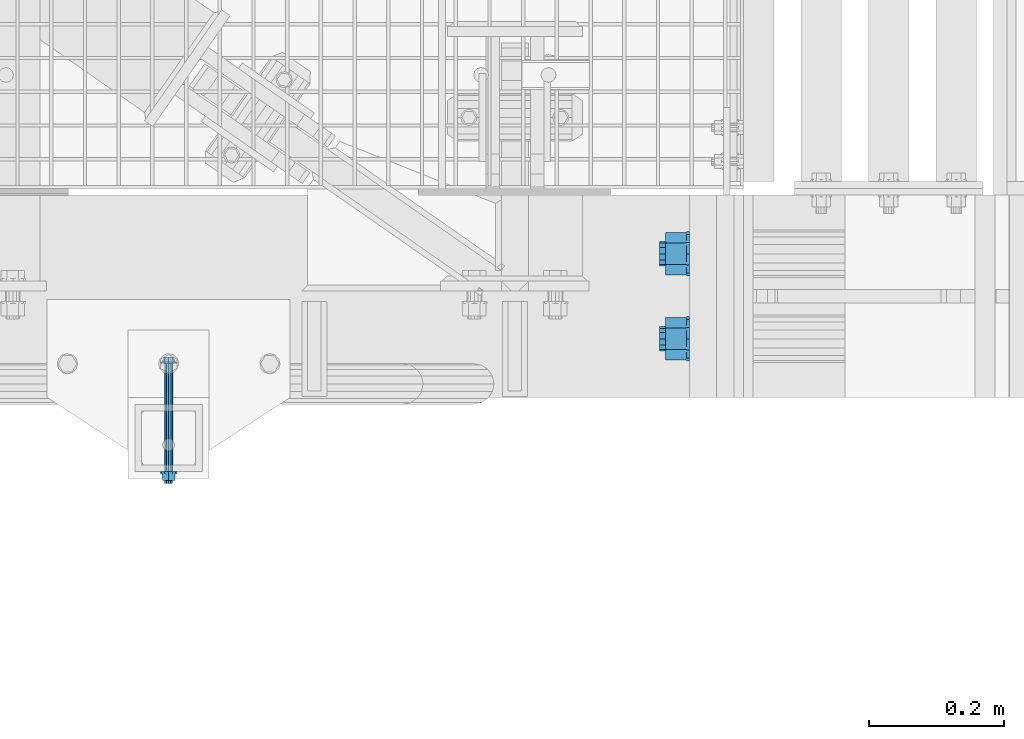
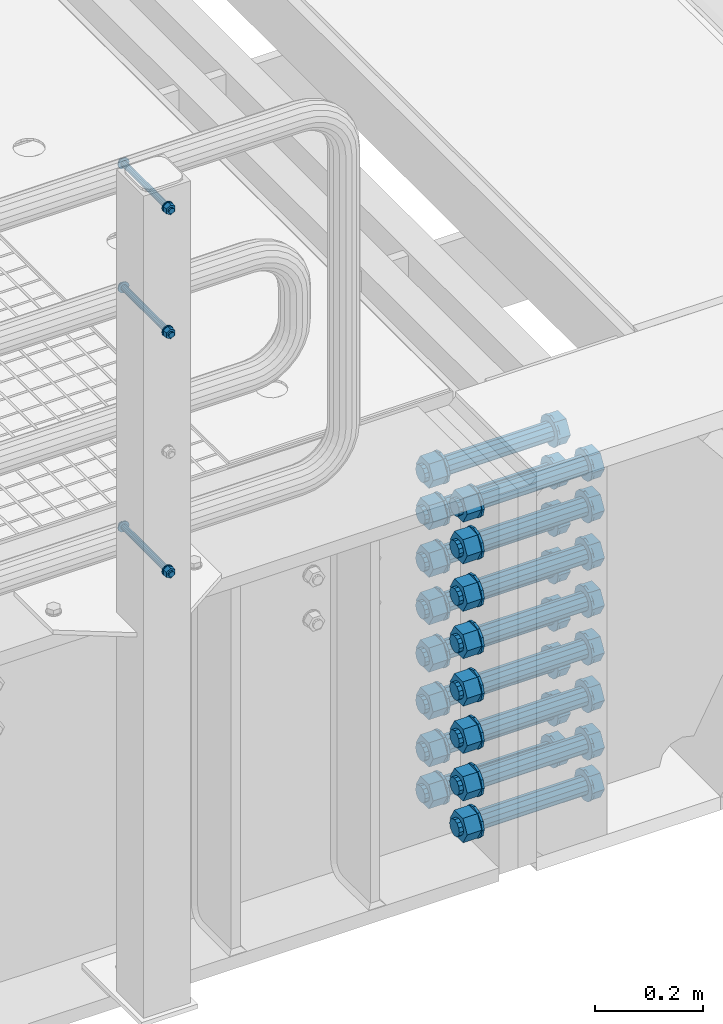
# One storey, part 50 of 1530: 4 mechanical fasteners.
"""IFC2X3 building model written with IfcOpenShell, lengths in millimetres."""

from ifc_helpers import new_model, si_unit, frame, origin_with_axes, place, context, subcontext, project, spatial, faceted_brep, source, transform, mapped, material, type_object, element, save


model = new_model("IFC2X3")

# Units and contexts
model_context = context("Model", 3, precision=1e-05, world=origin_with_axes())
body_context = subcontext(model_context, "Body", "Model", "MODEL_VIEW")
ifc_project = project(units=[si_unit("LENGTHUNIT", "METRE", prefix="MILLI"), si_unit("AREAUNIT", "SQUARE_METRE"), si_unit("VOLUMEUNIT", "CUBIC_METRE"), si_unit("MASSUNIT", "GRAM", prefix="KILO"), si_unit("TIMEUNIT", "SECOND"), si_unit("PLANEANGLEUNIT", "RADIAN"), si_unit("SOLIDANGLEUNIT", "STERADIAN"), si_unit("THERMODYNAMICTEMPERATUREUNIT", "DEGREE_CELSIUS"), si_unit("LUMINOUSINTENSITYUNIT", "LUMEN")], contexts=[model_context])

# Site, building, storey
site_placement = place(None, origin_with_axes())
site = spatial("IfcSite", under=ifc_project, at=site_placement, Name="Brattvåg", CompositionType="ELEMENT")
building_placement = place(site_placement, origin_with_axes())
building = spatial("IfcBuilding", under=site, at=building_placement, Name="Undefined", CompositionType="ELEMENT")
storey_placement = place(building_placement, origin_with_axes())
storey = spatial("IfcBuildingStorey", under=building, at=storey_placement, Name="Undefined", CompositionType="ELEMENT", Elevation=0.0)

# Mechanical fasteners
ifc_material = material(Name="8")
mechanical_fastener_type = type_object("IfcMechanicalFastenerType", Name="Bolt assembly")
shared_shape_1 = source(origin_with_axes(), body_context, "Body", "Brep", [
    faceted_brep([(6.49435320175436, -9.99984019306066, 0.0), (4.59220118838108, -9.99984019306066, 4.59220118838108), (3.97664443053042e-16, -9.99984019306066, 6.49435320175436), (-4.59220118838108, -9.99984019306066, 4.59220118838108), (-6.49435320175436, -9.99984019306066, 7.95328886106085e-16), (-4.59220118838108, -9.99984019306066, -4.59220118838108), (-1.19299332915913e-15, -9.99984019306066, -6.49435320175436), (4.59220118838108, -9.99984019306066, -4.59220118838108), (7.34846922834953, -2.49984019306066, -7.34846922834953), (-1.90903542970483e-15, -2.49984019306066, -10.3923048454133), (-7.34846922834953, -2.49984019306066, -7.34846922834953), (-10.3923048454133, -2.49984019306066, 1.27269028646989e-15), (-7.34846922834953, -2.49984019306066, 7.34846922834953), (6.36345143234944e-16, -2.49984019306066, 10.3923048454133), (7.34846922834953, -2.49984019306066, 7.34846922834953), (10.3923048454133, -2.49984019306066, 0.0), (6.0, -2.49984019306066, 0.0), (5.19615242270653, -2.49984019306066, 3.00000000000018), (2.99999999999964, -2.49984019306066, 5.19615242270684), (-6.21801588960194e-13, -2.49984019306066, 6.0), (-3.00000000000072, -2.49984019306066, 5.19615242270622), (-5.19615242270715, -2.49984019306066, 2.9999999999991), (-6.0, -2.49984019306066, -1.24360317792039e-12), (-5.19615242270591, -2.49984019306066, -3.00000000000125), (-2.99999999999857, -2.49984019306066, -5.19615242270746), (1.85874342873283e-12, -2.49984019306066, -6.0), (3.00000000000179, -2.49984019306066, -5.1961524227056), (5.19615242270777, -2.49984019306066, -2.99999999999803), (5.19615242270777, 177.500159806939, -2.99999999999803), (3.00000000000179, 177.500159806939, -5.1961524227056), (1.85874342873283e-12, 177.500159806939, -6.0), (-2.99999999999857, 177.500159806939, -5.19615242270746), (-5.19615242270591, 177.500159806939, -3.00000000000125), (-6.0, 177.500159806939, -1.24360317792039e-12), (-5.19615242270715, 177.500159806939, 2.9999999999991), (-3.00000000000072, 177.500159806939, 5.19615242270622), (-6.21801588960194e-13, 177.500159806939, 6.0), (2.99999999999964, 177.500159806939, 5.19615242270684), (5.19615242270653, 177.500159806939, 3.00000000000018), (6.0, 177.500159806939, 0.0), (12.0, -2.49984019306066, 0.0), (10.3923048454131, -2.49984019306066, 6.00000000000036), (5.99999999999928, -2.49984019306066, 10.3923048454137), (-1.24360317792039e-12, -2.49984019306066, 12.0), (-6.00000000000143, -2.49984019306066, 10.3923048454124), (-10.3923048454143, -2.49984019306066, 5.99999999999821), (-12.0, -2.49984019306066, -2.48720635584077e-12), (-10.3923048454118, -2.49984019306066, -6.00000000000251), (-5.99999999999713, -2.49984019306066, -10.3923048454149), (3.71748685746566e-12, -2.49984019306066, -12.0), (6.00000000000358, -2.49984019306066, -10.3923048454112), (10.3923048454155, -2.49984019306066, -5.99999999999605), (10.3923048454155, 0.000159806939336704, -5.99999999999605), (6.00000000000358, 0.000159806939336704, -10.3923048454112), (3.71748685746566e-12, 0.000159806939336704, -12.0), (-5.99999999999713, 0.000159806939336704, -10.3923048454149), (-10.3923048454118, 0.000159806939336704, -6.00000000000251), (-12.0, 0.000159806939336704, -2.48720635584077e-12), (-10.3923048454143, 0.000159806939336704, 5.99999999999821), (-6.00000000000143, 0.000159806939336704, 10.3923048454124), (-1.24360317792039e-12, 0.000159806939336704, 12.0), (5.99999999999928, 0.000159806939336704, 10.3923048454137), (10.3923048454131, 0.000159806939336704, 6.00000000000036), (12.0, 0.000159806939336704, 0.0), (12.0, 160.299998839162, 0.0), (10.3923048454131, 160.299998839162, 6.00000000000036), (5.99999999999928, 160.299998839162, 10.3923048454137), (-1.24360317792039e-12, 160.299998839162, 12.0), (-6.00000000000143, 160.299998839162, 10.3923048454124), (-10.3923048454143, 160.299998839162, 5.99999999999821), (-12.0, 160.299998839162, -2.48720635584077e-12), (-10.3923048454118, 160.299998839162, -6.00000000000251), (-5.99999999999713, 160.299998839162, -10.3923048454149), (3.71748685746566e-12, 160.299998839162, -12.0), (6.00000000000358, 160.299998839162, -10.3923048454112), (10.3923048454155, 160.299998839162, -5.99999999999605), (10.3923048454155, 162.799998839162, -5.99999999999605), (6.00000000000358, 162.799998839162, -10.3923048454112), (3.71748685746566e-12, 162.799998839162, -12.0), (-5.99999999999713, 162.799998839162, -10.3923048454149), (-10.3923048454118, 162.799998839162, -6.00000000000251), (-12.0, 162.799998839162, -2.48720635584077e-12), (-10.3923048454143, 162.799998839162, 5.99999999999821), (-6.00000000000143, 162.799998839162, 10.3923048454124), (-1.24360317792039e-12, 162.799998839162, 12.0), (5.99999999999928, 162.799998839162, 10.3923048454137), (10.3923048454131, 162.799998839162, 6.00000000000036), (12.0, 162.799998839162, 0.0), (10.9696551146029, 162.799998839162, 0.0), (5.48482755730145, 162.799998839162, 9.5), (-5.48482755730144, 162.799998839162, 9.5), (-10.9696551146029, 162.799998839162, 1.34339530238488e-15), (-5.48482755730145, 162.799998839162, -9.5), (5.48482755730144, 162.799998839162, -9.5), (5.48482755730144, 173.599999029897, -9.5), (-5.48482755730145, 173.599999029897, -9.5), (-10.9696551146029, 173.599999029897, 1.34339530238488e-15), (-5.48482755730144, 173.599999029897, 9.5), (5.48482755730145, 173.599999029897, 9.5), (10.9696551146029, 173.599999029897, 0.0)], [[[0, 1, 2, 3, 4, 5, 6, 7]], [[8, 9, 10, 11, 12, 13, 14, 15]], [[0, 15, 14, 1]], [[1, 14, 13, 2]], [[2, 13, 12, 3]], [[3, 12, 11, 4]], [[4, 11, 10, 5]], [[5, 10, 9, 6]], [[6, 9, 8, 7]], [[7, 8, 15, 0]], [[16, 17, 18, 19, 20, 21, 22, 23, 24, 25, 26, 27]], [[28, 29, 30, 31, 32, 33, 34, 35, 36, 37, 38, 39]], [[16, 39, 38, 17]], [[17, 38, 37, 18]], [[18, 37, 36, 19]], [[19, 36, 35, 20]], [[20, 35, 34, 21]], [[21, 34, 33, 22]], [[22, 33, 32, 23]], [[23, 32, 31, 24]], [[24, 31, 30, 25]], [[25, 30, 29, 26]], [[26, 29, 28, 27]], [[27, 28, 39, 16]], [[40, 41, 42, 43, 44, 45, 46, 47, 48, 49, 50, 51]], [[52, 53, 54, 55, 56, 57, 58, 59, 60, 61, 62, 63]], [[40, 63, 62, 41]], [[41, 62, 61, 42]], [[42, 61, 60, 43]], [[43, 60, 59, 44]], [[44, 59, 58, 45]], [[45, 58, 57, 46]], [[46, 57, 56, 47]], [[47, 56, 55, 48]], [[48, 55, 54, 49]], [[49, 54, 53, 50]], [[50, 53, 52, 51]], [[51, 52, 63, 40]], [[64, 65, 66, 67, 68, 69, 70, 71, 72, 73, 74, 75]], [[76, 77, 78, 79, 80, 81, 82, 83, 84, 85, 86, 87]], [[64, 87, 86, 65]], [[65, 86, 85, 66]], [[66, 85, 84, 67]], [[67, 84, 83, 68]], [[68, 83, 82, 69]], [[69, 82, 81, 70]], [[70, 81, 80, 71]], [[71, 80, 79, 72]], [[72, 79, 78, 73]], [[73, 78, 77, 74]], [[74, 77, 76, 75]], [[75, 76, 87, 64]], [[88, 89, 90, 91, 92, 93]], [[94, 95, 96, 97, 98, 99]], [[88, 99, 98, 89]], [[89, 98, 97, 90]], [[90, 97, 96, 91]], [[91, 96, 95, 92]], [[92, 95, 94, 93]], [[93, 94, 99, 88]]]),
    faceted_brep([(6.5, 0.100159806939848, 0.0), (5.62916512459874, 0.100159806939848, 3.25000000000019), (3.24999999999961, 0.100159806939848, 5.62916512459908), (-6.7361838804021e-13, 0.100159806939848, 6.5), (-3.25000000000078, 0.100159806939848, 5.6291651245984), (-5.62916512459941, 0.100159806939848, 3.24999999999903), (-6.5, 0.100159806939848, -1.34723677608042e-12), (-5.62916512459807, 0.100159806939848, -3.25000000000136), (-3.24999999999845, 0.100159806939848, -5.62916512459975), (2.01363871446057e-12, 0.100159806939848, -6.5), (3.25000000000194, 0.100159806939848, -5.62916512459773), (5.62916512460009, 0.100159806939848, -3.24999999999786), (5.62916512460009, 60.4001552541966, -3.24999999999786), (3.25000000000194, 60.4001552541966, -5.62916512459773), (2.01363871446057e-12, 60.4001552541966, -6.5), (-3.24999999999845, 60.4001552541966, -5.62916512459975), (-5.62916512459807, 60.4001552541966, -3.25000000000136), (-6.5, 60.4001552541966, -1.34723677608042e-12), (-5.62916512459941, 60.4001552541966, 3.24999999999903), (-3.25000000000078, 60.4001552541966, 5.6291651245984), (-6.7361838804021e-13, 60.4001552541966, 6.5), (3.24999999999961, 60.4001552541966, 5.62916512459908), (5.62916512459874, 60.4001552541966, 3.25000000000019), (6.5, 60.4001552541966, 0.0), (6.5, 60.1999988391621, 0.0), (5.62916512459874, 60.1999988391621, 3.25000000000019), (3.24999999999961, 60.1999988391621, 5.62916512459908), (-6.7361838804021e-13, 60.1999988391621, 6.5), (-3.25000000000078, 60.1999988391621, 5.6291651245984), (-5.62916512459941, 60.1999988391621, 3.24999999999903), (-6.5, 60.1999988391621, -1.34723677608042e-12), (-5.62916512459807, 60.1999988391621, -3.25000000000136), (-3.24999999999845, 60.1999988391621, -5.62916512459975), (2.01363871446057e-12, 60.1999988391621, -6.5), (3.25000000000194, 60.1999988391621, -5.62916512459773), (5.62916512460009, 60.1999988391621, -3.24999999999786), (5.62916512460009, 160.299998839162, -3.24999999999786), (3.25000000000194, 160.299998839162, -5.62916512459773), (2.01363871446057e-12, 160.299998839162, -6.5), (-3.24999999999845, 160.299998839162, -5.62916512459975), (-5.62916512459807, 160.299998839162, -3.25000000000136), (-6.5, 160.299998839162, -1.34723677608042e-12), (-5.62916512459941, 160.299998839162, 3.24999999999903), (-3.25000000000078, 160.299998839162, 5.6291651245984), (-6.7361838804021e-13, 160.299998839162, 6.5), (3.24999999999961, 160.299998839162, 5.62916512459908), (5.62916512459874, 160.299998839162, 3.25000000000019), (6.5, 160.299998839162, 0.0)], [[[0, 1, 2, 3, 4, 5, 6, 7, 8, 9, 10, 11]], [[12, 13, 14, 15, 16, 17, 18, 19, 20, 21, 22, 23]], [[0, 23, 22, 1]], [[1, 22, 21, 2]], [[2, 21, 20, 3]], [[3, 20, 19, 4]], [[4, 19, 18, 5]], [[5, 18, 17, 6]], [[6, 17, 16, 7]], [[7, 16, 15, 8]], [[8, 15, 14, 9]], [[9, 14, 13, 10]], [[10, 13, 12, 11]], [[11, 12, 23, 0]], [[24, 25, 26, 27, 28, 29, 30, 31, 32, 33, 34, 35]], [[36, 37, 38, 39, 40, 41, 42, 43, 44, 45, 46, 47]], [[24, 47, 46, 25]], [[25, 46, 45, 26]], [[26, 45, 44, 27]], [[27, 44, 43, 28]], [[28, 43, 42, 29]], [[29, 42, 41, 30]], [[30, 41, 40, 31]], [[31, 40, 39, 32]], [[32, 39, 38, 33]], [[33, 38, 37, 34]], [[34, 37, 36, 35]], [[35, 36, 47, 24]]]),
])
for number, where, z_axis, x_axis, name in (
    (1, (16044.9999999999, -99.6997226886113, 149.550000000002), (-1.0, 1.99999855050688e-09, 0.0), (0.0, 0.0, -1.0), "Bolt assembly"),
    (2, (16044.9999999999, -99.6997226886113, 689.550000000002), (-1.0, 1.99999855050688e-09, 0.0), (0.0, 0.0, -1.0), "Bolt assembly"),
    (3, (16044.9999999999, -99.6997226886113, 969.550000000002), (-1.0, 1.99999855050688e-09, 0.0), (0.0, 0.0, -1.0), "Bolt assembly"),
):
    element("IfcMechanicalFastener", number, at=place(storey_placement, frame(where, z_axis=z_axis, x_axis=x_axis)), inside=storey, type_object=mechanical_fastener_type, material=ifc_material, Name=name, NominalDiameter=12.0, NominalLength=180.0, context=body_context, shape_type="MappedRepresentation", body=[
        mapped(shared_shape_1, transform((0.0, 0.0, 0.0))),
    ])
shared_shape_2 = source(origin_with_axes(), body_context, "Body", "Brep", [
    faceted_brep([(31.7542648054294, -27.5, 0.0), (15.8771324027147, -27.5, 27.5), (-15.8771324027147, -27.5, 27.5), (-31.7542648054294, -27.5, 3.88877587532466e-15), (-15.8771324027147, -27.5, -27.5), (15.8771324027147, -27.5, -27.5), (15.8771324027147, -5.0, -27.5), (-15.8771324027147, -5.0, -27.5), (-31.7542648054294, -5.0, 3.88877587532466e-15), (-15.8771324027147, -5.0, 27.5), (15.8771324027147, -5.0, 27.5), (31.7542648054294, -5.0, 0.0), (18.0, -5.0, 0.0), (15.5884572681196, -5.0, 9.00000000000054), (8.99999999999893, -5.0, 15.5884572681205), (-1.86540476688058e-12, -5.0, 18.0), (-9.00000000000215, -5.0, 15.5884572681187), (-15.5884572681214, -5.0, 8.99999999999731), (-18.0, -5.0, -3.73080953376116e-12), (-15.5884572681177, -5.0, -9.00000000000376), (-8.9999999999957, -5.0, -15.5884572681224), (5.57623028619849e-12, -5.0, -18.0), (9.00000000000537, -5.0, -15.5884572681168), (15.5884572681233, -5.0, -8.99999999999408), (15.5884572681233, 275.0, -8.99999999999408), (9.00000000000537, 275.0, -15.5884572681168), (5.57623028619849e-12, 275.0, -18.0), (-8.9999999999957, 275.0, -15.5884572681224), (-15.5884572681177, 275.0, -9.00000000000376), (-18.0, 275.0, -3.73080953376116e-12), (-15.5884572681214, 275.0, 8.99999999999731), (-9.00000000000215, 275.0, 15.5884572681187), (-1.86540476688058e-12, 275.0, 18.0), (8.99999999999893, 275.0, 15.5884572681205), (15.5884572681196, 275.0, 9.00000000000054), (18.0, 275.0, 0.0), (33.0, -5.0, 0.0), (28.5788383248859, -5.0, 16.500000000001), (16.499999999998, -5.0, 28.5788383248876), (-3.41990873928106e-12, -5.0, 33.0), (-16.5000000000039, -5.0, 28.5788383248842), (-28.5788383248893, -5.0, 16.4999999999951), (-33.0, -5.0, -6.83981747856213e-12), (-28.5788383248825, -5.0, -16.5000000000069), (-16.4999999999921, -5.0, -28.578838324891), (1.02230888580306e-11, -5.0, -33.0), (16.5000000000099, -5.0, -28.5788383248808), (28.5788383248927, -5.0, -16.4999999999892), (28.5788383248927, 0.0, -16.4999999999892), (16.5000000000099, 0.0, -28.5788383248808), (1.02230888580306e-11, 0.0, -33.0), (-16.4999999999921, 0.0, -28.578838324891), (-28.5788383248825, 0.0, -16.5000000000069), (-33.0, 0.0, -6.83981747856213e-12), (-28.5788383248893, 0.0, 16.4999999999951), (-16.5000000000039, 0.0, 28.5788383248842), (-3.41990873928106e-12, 0.0, 33.0), (16.499999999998, 0.0, 28.5788383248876), (28.5788383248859, 0.0, 16.500000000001), (33.0, 0.0, 0.0), (33.0, 229.998829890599, 0.0), (28.5788383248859, 229.998829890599, 16.500000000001), (16.499999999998, 229.998829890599, 28.5788383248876), (-3.41990873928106e-12, 229.998829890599, 33.0), (-16.5000000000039, 229.998829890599, 28.5788383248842), (-28.5788383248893, 229.998829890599, 16.4999999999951), (-33.0, 229.998829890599, -6.83981747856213e-12), (-28.5788383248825, 229.998829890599, -16.5000000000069), (-16.4999999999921, 229.998829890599, -28.578838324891), (1.02230888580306e-11, 229.998829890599, -33.0), (16.5000000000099, 229.998829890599, -28.5788383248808), (28.5788383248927, 229.998829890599, -16.4999999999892), (28.5788383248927, 234.998829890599, -16.4999999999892), (16.5000000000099, 234.998829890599, -28.5788383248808), (1.02230888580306e-11, 234.998829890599, -33.0), (-16.4999999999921, 234.998829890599, -28.578838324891), (-28.5788383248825, 234.998829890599, -16.5000000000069), (-33.0, 234.998829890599, -6.83981747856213e-12), (-28.5788383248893, 234.998829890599, 16.4999999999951), (-16.5000000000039, 234.998829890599, 28.5788383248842), (-3.41990873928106e-12, 234.998829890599, 33.0), (16.499999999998, 234.998829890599, 28.5788383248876), (28.5788383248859, 234.998829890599, 16.500000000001), (33.0, 234.998829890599, 0.0), (31.7542648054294, 234.998829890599, 0.0), (15.8771324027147, 234.998829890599, 27.5), (-15.8771324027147, 234.998829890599, 27.5), (-31.7542648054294, 234.998829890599, 3.88877587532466e-15), (-15.8771324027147, 234.998829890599, -27.5), (15.8771324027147, 234.998829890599, -27.5), (15.8771324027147, 265.998829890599, -27.5), (-15.8771324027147, 265.998829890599, -27.5), (-31.7542648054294, 265.998829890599, 3.88877587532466e-15), (-15.8771324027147, 265.998829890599, 27.5), (15.8771324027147, 265.998829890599, 27.5), (31.7542648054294, 265.998829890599, 0.0)], [[[0, 1, 2, 3, 4, 5]], [[6, 7, 8, 9, 10, 11]], [[0, 11, 10, 1]], [[1, 10, 9, 2]], [[2, 9, 8, 3]], [[3, 8, 7, 4]], [[4, 7, 6, 5]], [[5, 6, 11, 0]], [[12, 13, 14, 15, 16, 17, 18, 19, 20, 21, 22, 23]], [[24, 25, 26, 27, 28, 29, 30, 31, 32, 33, 34, 35]], [[12, 35, 34, 13]], [[13, 34, 33, 14]], [[14, 33, 32, 15]], [[15, 32, 31, 16]], [[16, 31, 30, 17]], [[17, 30, 29, 18]], [[18, 29, 28, 19]], [[19, 28, 27, 20]], [[20, 27, 26, 21]], [[21, 26, 25, 22]], [[22, 25, 24, 23]], [[23, 24, 35, 12]], [[36, 37, 38, 39, 40, 41, 42, 43, 44, 45, 46, 47]], [[48, 49, 50, 51, 52, 53, 54, 55, 56, 57, 58, 59]], [[36, 59, 58, 37]], [[37, 58, 57, 38]], [[38, 57, 56, 39]], [[39, 56, 55, 40]], [[40, 55, 54, 41]], [[41, 54, 53, 42]], [[42, 53, 52, 43]], [[43, 52, 51, 44]], [[44, 51, 50, 45]], [[45, 50, 49, 46]], [[46, 49, 48, 47]], [[47, 48, 59, 36]], [[60, 61, 62, 63, 64, 65, 66, 67, 68, 69, 70, 71]], [[72, 73, 74, 75, 76, 77, 78, 79, 80, 81, 82, 83]], [[60, 83, 82, 61]], [[61, 82, 81, 62]], [[62, 81, 80, 63]], [[63, 80, 79, 64]], [[64, 79, 78, 65]], [[65, 78, 77, 66]], [[66, 77, 76, 67]], [[67, 76, 75, 68]], [[68, 75, 74, 69]], [[69, 74, 73, 70]], [[70, 73, 72, 71]], [[71, 72, 83, 60]], [[84, 85, 86, 87, 88, 89]], [[90, 91, 92, 93, 94, 95]], [[84, 95, 94, 85]], [[85, 94, 93, 86]], [[86, 93, 92, 87]], [[87, 92, 91, 88]], [[88, 91, 90, 89]], [[89, 90, 95, 84]]]),
    faceted_brep([(19.5, 0.1, 0.0), (16.8874953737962, 0.1, 9.75000000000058), (9.74999999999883, 0.1, 16.8874953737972), (-2.02085516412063e-12, 0.1, 19.5), (-9.75000000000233, 0.1, 16.8874953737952), (-16.8874953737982, 0.1, 9.74999999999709), (-19.5, 0.1, -4.04171032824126e-12), (-16.8874953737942, 0.1, -9.75000000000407), (-9.74999999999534, 0.1, -16.8874953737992), (6.0409161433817e-12, 0.1, -19.5), (9.75000000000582, 0.1, -16.8874953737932), (16.8874953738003, 0.1, -9.74999999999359), (16.8874953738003, 150.1, -9.74999999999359), (9.75000000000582, 150.1, -16.8874953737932), (6.0409161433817e-12, 150.1, -19.5), (-9.74999999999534, 150.1, -16.8874953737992), (-16.8874953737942, 150.1, -9.75000000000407), (-19.5, 150.1, -4.04171032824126e-12), (-16.8874953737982, 150.1, 9.74999999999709), (-9.75000000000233, 150.1, 16.8874953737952), (-2.02085516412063e-12, 150.1, 19.5), (9.74999999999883, 150.1, 16.8874953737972), (16.8874953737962, 150.1, 9.75000000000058), (19.5, 150.1, 0.0), (19.5, 149.998829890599, 0.0), (16.8874953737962, 149.998829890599, 9.75000000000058), (9.74999999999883, 149.998829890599, 16.8874953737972), (-2.02085516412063e-12, 149.998829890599, 19.5), (-9.75000000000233, 149.998829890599, 16.8874953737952), (-16.8874953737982, 149.998829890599, 9.74999999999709), (-19.5, 149.998829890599, -4.04171032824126e-12), (-16.8874953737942, 149.998829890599, -9.75000000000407), (-9.74999999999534, 149.998829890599, -16.8874953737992), (6.0409161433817e-12, 149.998829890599, -19.5), (9.75000000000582, 149.998829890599, -16.8874953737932), (16.8874953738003, 149.998829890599, -9.74999999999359), (16.8874953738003, 189.998829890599, -9.74999999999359), (9.75000000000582, 189.998829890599, -16.8874953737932), (6.0409161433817e-12, 189.998829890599, -19.5), (-9.74999999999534, 189.998829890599, -16.8874953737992), (-16.8874953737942, 189.998829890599, -9.75000000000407), (-19.5, 189.998829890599, -4.04171032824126e-12), (-16.8874953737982, 189.998829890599, 9.74999999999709), (-9.75000000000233, 189.998829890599, 16.8874953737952), (-2.02085516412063e-12, 189.998829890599, 19.5), (9.74999999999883, 189.998829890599, 16.8874953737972), (16.8874953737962, 189.998829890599, 9.75000000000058), (19.5, 189.998829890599, 0.0), (19.5, 189.898829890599, 0.0), (16.8874953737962, 189.898829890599, 9.75000000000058), (9.74999999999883, 189.898829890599, 16.8874953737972), (-2.02085516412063e-12, 189.898829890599, 19.5), (-9.75000000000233, 189.898829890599, 16.8874953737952), (-16.8874953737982, 189.898829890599, 9.74999999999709), (-19.5, 189.898829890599, -4.04171032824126e-12), (-16.8874953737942, 189.898829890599, -9.75000000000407), (-9.74999999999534, 189.898829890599, -16.8874953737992), (6.0409161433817e-12, 189.898829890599, -19.5), (9.75000000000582, 189.898829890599, -16.8874953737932), (16.8874953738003, 189.898829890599, -9.74999999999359), (16.8874953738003, 229.998829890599, -9.74999999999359), (9.75000000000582, 229.998829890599, -16.8874953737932), (6.0409161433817e-12, 229.998829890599, -19.5), (-9.74999999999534, 229.998829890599, -16.8874953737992), (-16.8874953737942, 229.998829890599, -9.75000000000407), (-19.5, 229.998829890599, -4.04171032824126e-12), (-16.8874953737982, 229.998829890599, 9.74999999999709), (-9.75000000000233, 229.998829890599, 16.8874953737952), (-2.02085516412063e-12, 229.998829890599, 19.5), (9.74999999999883, 229.998829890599, 16.8874953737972), (16.8874953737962, 229.998829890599, 9.75000000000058), (19.5, 229.998829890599, 0.0)], [[[0, 1, 2, 3, 4, 5, 6, 7, 8, 9, 10, 11]], [[12, 13, 14, 15, 16, 17, 18, 19, 20, 21, 22, 23]], [[0, 23, 22, 1]], [[1, 22, 21, 2]], [[2, 21, 20, 3]], [[3, 20, 19, 4]], [[4, 19, 18, 5]], [[5, 18, 17, 6]], [[6, 17, 16, 7]], [[7, 16, 15, 8]], [[8, 15, 14, 9]], [[9, 14, 13, 10]], [[10, 13, 12, 11]], [[11, 12, 23, 0]], [[24, 25, 26, 27, 28, 29, 30, 31, 32, 33, 34, 35]], [[36, 37, 38, 39, 40, 41, 42, 43, 44, 45, 46, 47]], [[24, 47, 46, 25]], [[25, 46, 45, 26]], [[26, 45, 44, 27]], [[27, 44, 43, 28]], [[28, 43, 42, 29]], [[29, 42, 41, 30]], [[30, 41, 40, 31]], [[31, 40, 39, 32]], [[32, 39, 38, 33]], [[33, 38, 37, 34]], [[34, 37, 36, 35]], [[35, 36, 47, 24]], [[48, 49, 50, 51, 52, 53, 54, 55, 56, 57, 58, 59]], [[60, 61, 62, 63, 64, 65, 66, 67, 68, 69, 70, 71]], [[48, 71, 70, 49]], [[49, 70, 69, 50]], [[50, 69, 68, 51]], [[51, 68, 67, 52]], [[52, 67, 66, 53]], [[53, 66, 65, 54]], [[54, 65, 64, 55]], [[55, 64, 63, 56]], [[56, 63, 62, 57]], [[57, 62, 61, 58]], [[58, 61, 60, 59]], [[59, 60, 71, 48]]]),
])
mechanical_fastener_placement = place(storey_placement, frame((17046.9988298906, -62.9999970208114, -445.000288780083), z_axis=(0.0, 0.0, 1.0), x_axis=(0.0, 1.0, 0.0)))
element("IfcMechanicalFastener", 4, at=mechanical_fastener_placement, inside=storey, type_object=mechanical_fastener_type, material=ifc_material, Name="Bolt assembly", NominalDiameter=36.0, NominalLength=280.0, context=body_context, shape_type="MappedRepresentation", body=[
    mapped(shared_shape_2, transform((1.43700162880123e-10, 0.0, -361.500000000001))),
    mapped(shared_shape_2, transform((126.000000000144, 0.0, -361.500000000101))),
    mapped(shared_shape_2, transform((1.0550138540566e-10, 0.0, -267.5))),
    mapped(shared_shape_2, transform((126.000000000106, 0.0, -267.500000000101))),
    mapped(shared_shape_2, transform((6.3664629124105e-11, 0.0, -160.5))),
    mapped(shared_shape_2, transform((126.000000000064, 0.0, -160.5000000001))),
    mapped(shared_shape_2, transform((2.00088834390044e-11, 0.0, -53.5000000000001))),
    mapped(shared_shape_2, transform((126.000000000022, 0.0, -53.5000000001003))),
    mapped(shared_shape_2, transform((-2.18278728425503e-11, 0.0, 53.5000000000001))),
    mapped(shared_shape_2, transform((125.999999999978, 0.0, 53.4999999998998))),
    mapped(shared_shape_2, transform((-6.3664629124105e-11, 0.0, 160.5))),
    mapped(shared_shape_2, transform((125.999999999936, 0.0, 160.4999999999))),
    mapped(shared_shape_2, transform((-1.07320374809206e-10, 0.0, 267.5))),
    mapped(shared_shape_2, transform((125.999999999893, 0.0, 267.4999999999))),
    mapped(shared_shape_2, transform((-1.43700162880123e-10, 0.0, 361.500000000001))),
    mapped(shared_shape_2, transform((125.999999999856, 0.0, 361.4999999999))),
])

save(model, "model.ifc")
